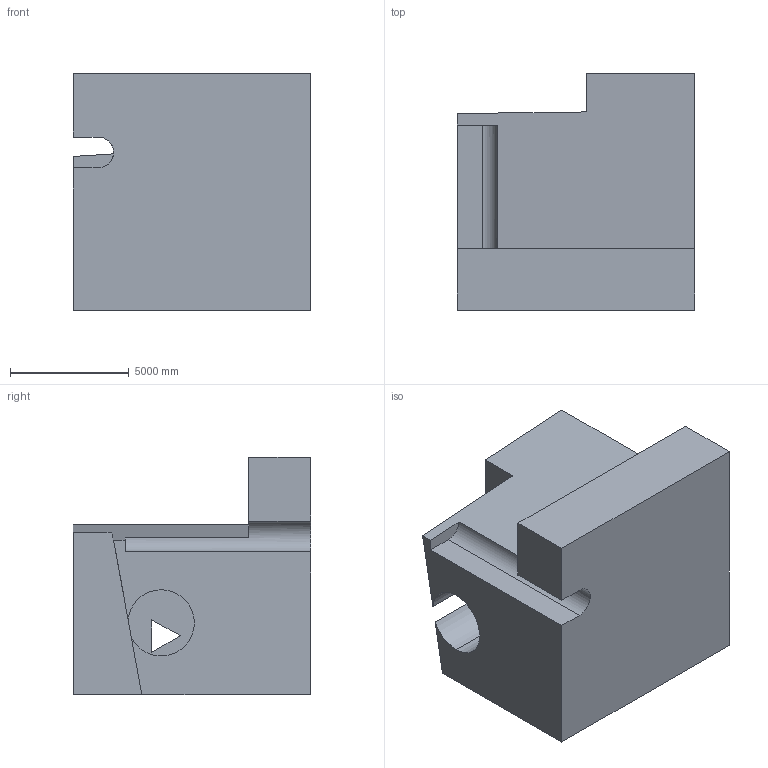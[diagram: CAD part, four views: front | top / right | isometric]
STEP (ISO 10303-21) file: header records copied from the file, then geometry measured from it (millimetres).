
FILE_DESCRIPTION (( 'STEP AP203' ), '1' );
FILE_NAME ('1426.STEP', '2022-08-18T14:24:17', ( 'user' ), ( '' ), 'SwSTEP 2.0', 'SolidWorks 2021', '' );
FILE_SCHEMA (( 'CONFIG_CONTROL_DESIGN' ));
Length unit declared in the file: centimetre
Products named in the file (1): 1426
Bounding box: 10000 x 10000 x 10000 mm (x, y, z)
Volume: 645552603056.8 mm3; surface area: 585558872.5 mm2
Topology: 1 solids, 1 shells, 22 faces, 60 edges, 40 vertices
Faces by surface type: plane 18, cylinder 4
Entity records: 774 total; most frequent: CARTESIAN_POINT 123, ORIENTED_EDGE 120, DIRECTION 115, EDGE_CURVE 60, VECTOR 51, LINE 51, VERTEX_POINT 40, AXIS2_PLACEMENT_3D 32
